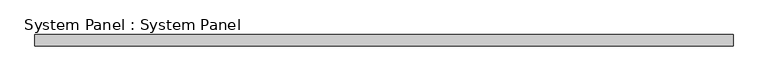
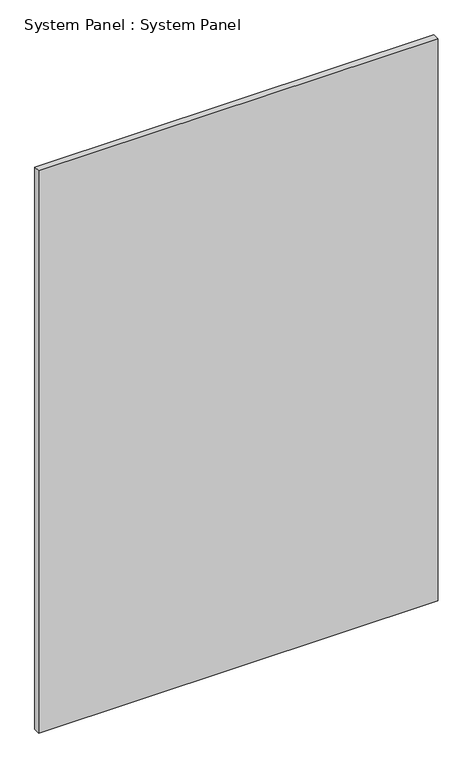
"""IFC4 building model written with IfcOpenShell, lengths in millimetres: plate geometry, System Panel : System Panel."""

from ifc_helpers import new_model, si_unit, origin, origin_with_axes, place, context, project, spatial, polyline, outline, extrude, source, transform, mapped, element, save


def system_panel_system_panel_6c834083(model_context):
    return source(origin(), model_context, "Body", "SweptSolid", [
        extrude(outline(polyline([(787.4, 19.05), (-787.4, 19.05), (-787.4, 44.45), (787.4, 44.45), (787.4, 19.05)])), origin_with_axes(), (0.0, 0.0, 1.0), 2343.15),
    ])


if __name__ == "__main__":
    model = new_model("IFC4")
    model_context = context("Model", 3, world=origin())
    ifc_project = project(units=[si_unit("LENGTHUNIT", "METRE", prefix="MILLI")], contexts=[model_context])
    site = spatial("IfcSite", under=ifc_project)
    building = spatial("IfcBuilding", under=site)
    placement = place(None, origin())
    system_panel_system_panel_shape = system_panel_system_panel_6c834083(model_context)
    element("IfcPlate", 1, ObjectType="System Panel : System Panel", at=placement, inside=building, context=model_context, shape_type="MappedRepresentation", body=[
        mapped(system_panel_system_panel_shape, transform((0.0, 0.0, 0.0), x_axis=(1.0, 0.0, 0.0), y_axis=(0.0, 1.0, 0.0), z_axis=(0.0, 0.0, 1.0))),
    ])
    save(model, "model.ifc")
